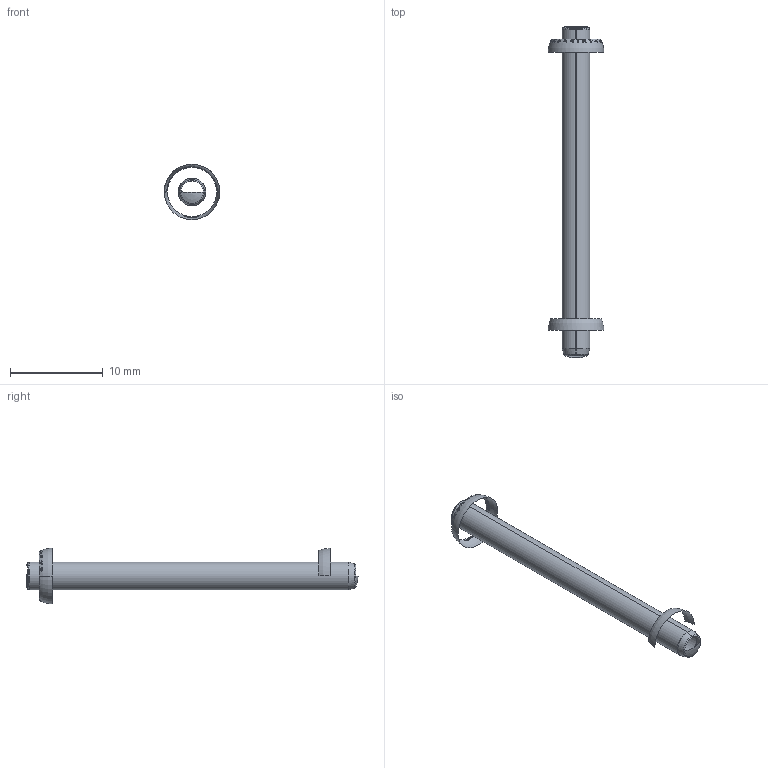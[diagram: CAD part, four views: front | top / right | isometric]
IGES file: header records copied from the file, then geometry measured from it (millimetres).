
Start section: SolidWorks IGES file using analytic representation for surfaces
Global section: file name: D:\Cleonir_arquivos\MT_15_07\Pinos Guia DIN 6325 ISO 8734 sem rosca\PG603036.igs; native system: SolidWorks 2013; preprocessor: SolidWorks 2013; author: Cleonir; date: 130718.161645; units: millimetre
Bounding box: 6 x 35.83 x 5.99 mm (x, y, z)
Surface area: 377.3 mm2 (no closed solid volume)
Topology: 0 solids, 0 shells, 300 faces, 2177 edges, 2176 vertices
Faces by surface type: bspline 273, revolution 27
